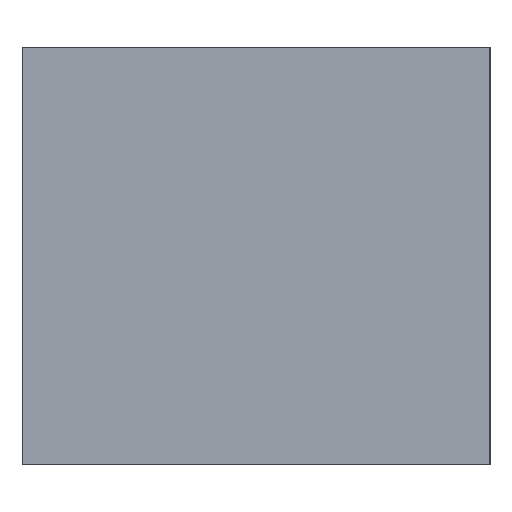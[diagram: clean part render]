
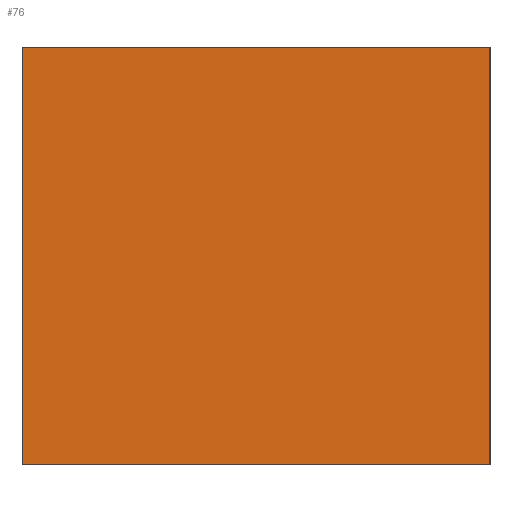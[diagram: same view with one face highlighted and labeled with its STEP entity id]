
A CAD part, left-side view. The second image highlights one B-rep face of the part: STEP entity #76.
In plain terms, the highlighted planar face has unit normal (-1, 0, 0).
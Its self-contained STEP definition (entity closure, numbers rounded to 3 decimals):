
#71=FACE_OUTER_BOUND('',#266,.T.);
#76=ADVANCED_FACE('',(#71),#119,.T.);
#119=PLANE('',#615);
#136=LINE('',#878,#148);
#138=LINE('',#890,#150);
#143=LINE('',#914,#155);
#144=LINE('',#916,#156);
#148=VECTOR('',#692,1.);
#150=VECTOR('',#704,1.);
#155=VECTOR('',#725,1.);
#156=VECTOR('',#728,1.);
#266=EDGE_LOOP('',(#365,#366,#367,#368));
#365=ORIENTED_EDGE('',*,*,#506,.T.);
#366=ORIENTED_EDGE('',*,*,#524,.T.);
#367=ORIENTED_EDGE('',*,*,#512,.F.);
#368=ORIENTED_EDGE('',*,*,#525,.T.);
#452=VERTEX_POINT('',#877);
#453=VERTEX_POINT('',#879);
#458=VERTEX_POINT('',#891);
#459=VERTEX_POINT('',#892);
#506=EDGE_CURVE('',#453,#452,#136,.T.);
#512=EDGE_CURVE('',#458,#459,#138,.T.);
#524=EDGE_CURVE('',#452,#459,#143,.T.);
#525=EDGE_CURVE('',#458,#453,#144,.T.);
#615=AXIS2_PLACEMENT_3D('',#917,#729,#730);
#692=DIRECTION('',(0.,0.,1.));
#704=DIRECTION('',(0.,0.,1.));
#725=DIRECTION('',(0.,1.,0.));
#728=DIRECTION('',(0.,-1.,0.));
#729=DIRECTION('',(-1.,0.,0.));
#730=DIRECTION('',(0.,0.,1.));
#877=CARTESIAN_POINT('',(-39.,-28.,0.));
#878=CARTESIAN_POINT('',(-39.,-28.,-50.));
#879=CARTESIAN_POINT('',(-39.,-28.,-50.));
#890=CARTESIAN_POINT('',(-39.,28.,-50.));
#891=CARTESIAN_POINT('',(-39.,28.,-50.));
#892=CARTESIAN_POINT('',(-39.,28.,0.));
#914=CARTESIAN_POINT('',(-39.,0.,0.));
#916=CARTESIAN_POINT('',(-39.,0.,-50.));
#917=CARTESIAN_POINT('',(-39.,0.,-50.));
